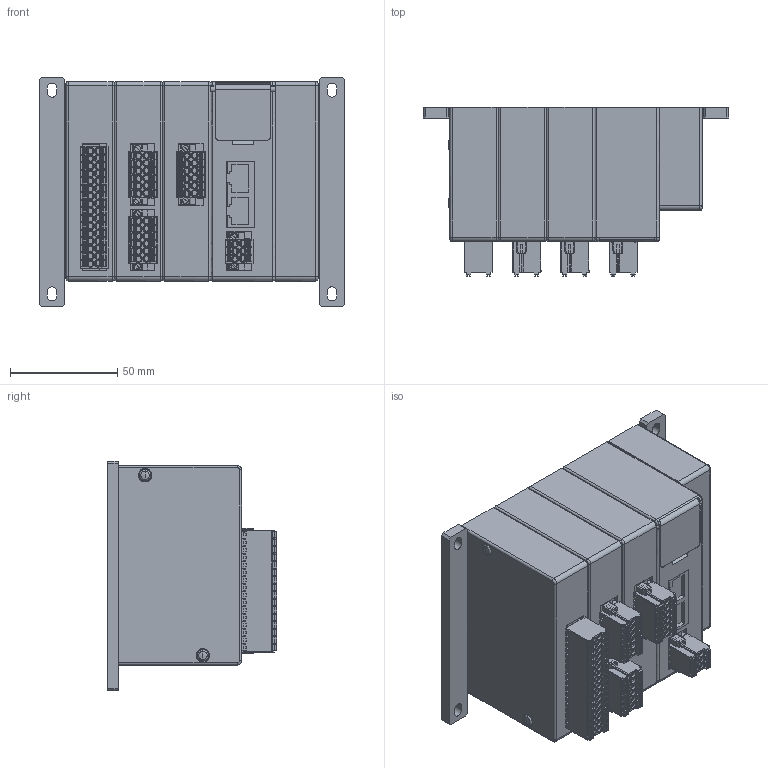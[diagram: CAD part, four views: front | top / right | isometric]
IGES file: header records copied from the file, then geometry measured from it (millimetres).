
Start section: ------------------------------------------------------------------------
Bounding box: 142.5 x 78.8 x 107 mm (x, y, z)
Volume: 664103.4 mm3; surface area: 117834.9 mm2
Topology: 6 solids, 6 shells, 4995 faces, 13034 edges, 8400 vertices
Faces by surface type: bspline 4995
